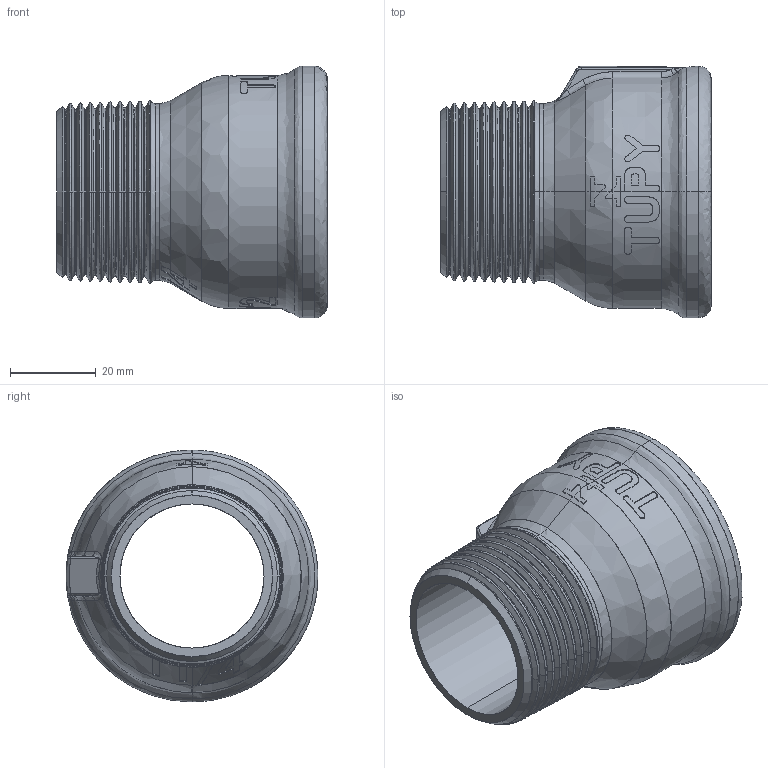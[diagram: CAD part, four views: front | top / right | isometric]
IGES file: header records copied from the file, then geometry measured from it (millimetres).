
Start section: SolidWorks IGES file using analytic representation for surfaces
Global section: file name: C:\Users\Joel Rosa\Desktop\Tubulação\12-35-OK\12-35-042.IGS; native system: SolidWorks 2011; preprocessor: SolidWorks 2011; author: Joel Rosa; date: 121209.031525; units: millimetre
Bounding box: 63 x 58.6 x 58.6 mm (x, y, z)
Surface area: 22780.7 mm2 (no closed solid volume)
Topology: 0 solids, 0 shells, 401 faces, 3313 edges, 3312 vertices
Faces by surface type: bspline 284, revolution 117
